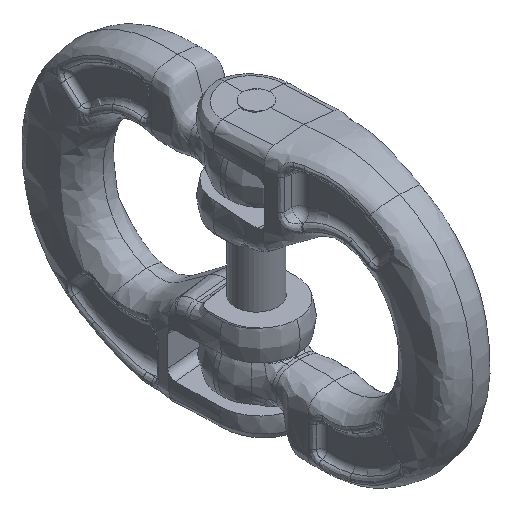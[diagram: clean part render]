
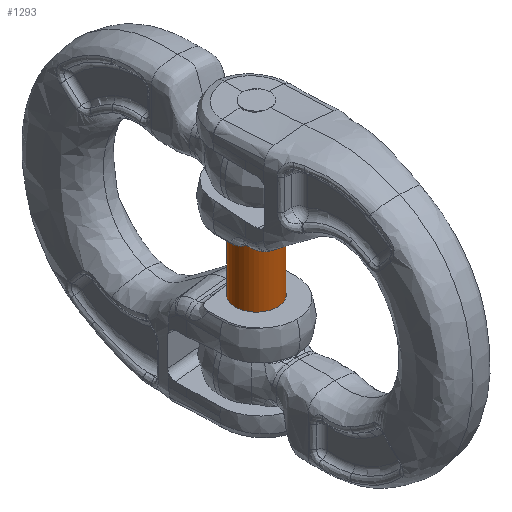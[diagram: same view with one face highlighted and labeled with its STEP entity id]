
A CAD part, isometric view. The second image highlights one B-rep face of the part: STEP entity #1293.
In plain terms, the highlighted cylindrical face has radius 5 mm (diameter 10 mm), a full revolution.
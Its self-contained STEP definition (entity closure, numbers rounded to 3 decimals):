
#180=CYLINDRICAL_SURFACE('',#6171,5.);
#221=FACE_BOUND('',#2082,.T.);
#222=FACE_BOUND('',#2083,.T.);
#721=CIRCLE('',#6169,5.);
#722=CIRCLE('',#6170,5.);
#1293=ADVANCED_FACE('',(#221,#222),#180,.T.);
#2082=EDGE_LOOP('',(#3826));
#2083=EDGE_LOOP('',(#3827));
#3826=ORIENTED_EDGE('',*,*,#5222,.T.);
#3827=ORIENTED_EDGE('',*,*,#5223,.F.);
#4350=VERTEX_POINT('',#27374);
#4351=VERTEX_POINT('',#27376);
#5222=EDGE_CURVE('',#4350,#4350,#721,.T.);
#5223=EDGE_CURVE('',#4351,#4351,#722,.T.);
#6169=AXIS2_PLACEMENT_3D('',#27373,#7196,#7197);
#6170=AXIS2_PLACEMENT_3D('',#27375,#7198,#7199);
#6171=AXIS2_PLACEMENT_3D('',#27377,#7200,#7201);
#7196=DIRECTION('',(0.,0.,-1.));
#7197=DIRECTION('',(1.,0.,0.));
#7198=DIRECTION('',(0.,0.,-1.));
#7199=DIRECTION('',(1.,0.,0.));
#7200=DIRECTION('',(0.,0.,-1.));
#7201=DIRECTION('',(-1.,0.,0.));
#27373=CARTESIAN_POINT('',(0.,0.,
33.078));
#27374=CARTESIAN_POINT('',(5.,0.,33.078));
#27375=CARTESIAN_POINT('',(0.,0.,
17.078));
#27376=CARTESIAN_POINT('',(5.,0.,17.078));
#27377=CARTESIAN_POINT('',(0.,0.,
33.078));
